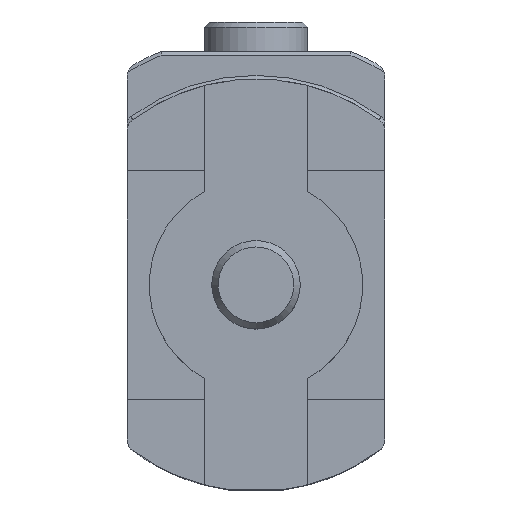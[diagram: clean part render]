
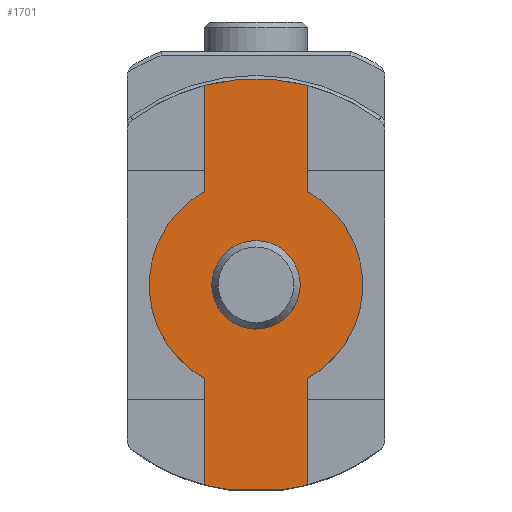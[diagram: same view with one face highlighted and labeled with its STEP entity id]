
A CAD part, top view. The second image highlights one B-rep face of the part: STEP entity #1701.
In plain terms, the highlighted planar face has unit normal (0, 0, 1).
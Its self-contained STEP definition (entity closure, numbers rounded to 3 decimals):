
#24 = ORIENTED_EDGE ( 'NONE', *, *, #1792, .T. ) ;
#67 = LINE ( 'NONE', #1003, #1229 ) ;
#71 = EDGE_CURVE ( 'NONE', #1329, #143, #117, .T. ) ;
#105 = CARTESIAN_POINT ( 'NONE',  ( 0., 0., 45.5 ) ) ;
#117 = CIRCLE ( 'NONE', #274, 28. ) ;
#122 = DIRECTION ( 'NONE',  ( 1., 0., 0. ) ) ;
#125 = CIRCLE ( 'NONE', #878, 14.5 ) ;
#143 = VERTEX_POINT ( 'NONE', #563 ) ;
#169 = VERTEX_POINT ( 'NONE', #2296 ) ;
#206 = DIRECTION ( 'NONE',  ( 1., 0., 0. ) ) ;
#223 = DIRECTION ( 'NONE',  ( 1., 0., 0. ) ) ;
#238 = EDGE_CURVE ( 'NONE', #679, #2332, #782, .T. ) ;
#274 = AXIS2_PLACEMENT_3D ( 'NONE', #745, #526, #2286 ) ;
#275 = CARTESIAN_POINT ( 'NONE',  ( 7., 12.698, 45.5 ) ) ;
#292 = DIRECTION ( 'NONE',  ( 0., 0., 1. ) ) ;
#410 = ORIENTED_EDGE ( 'NONE', *, *, #1083, .T. ) ;
#411 = CARTESIAN_POINT ( 'NONE',  ( -3.733, -27.75, 45.5 ) ) ;
#425 = PLANE ( 'NONE',  #915 ) ;
#434 = CIRCLE ( 'NONE', #753, 28. ) ;
#499 = CARTESIAN_POINT ( 'NONE',  ( -7., -27.111, 45.5 ) ) ;
#526 = DIRECTION ( 'NONE',  ( 0., 0., 1. ) ) ;
#563 = CARTESIAN_POINT ( 'NONE',  ( 7., -27.111, 45.5 ) ) ;
#613 = VERTEX_POINT ( 'NONE', #2306 ) ;
#622 = DIRECTION ( 'NONE',  ( 1., 0., 0. ) ) ;
#645 = EDGE_CURVE ( 'NONE', #169, #662, #793, .T. ) ;
#649 = EDGE_CURVE ( 'NONE', #1218, #1329, #2122, .T. ) ;
#662 = VERTEX_POINT ( 'NONE', #1191 ) ;
#663 = EDGE_LOOP ( 'NONE', ( #1073 ) ) ;
#679 = VERTEX_POINT ( 'NONE', #275 ) ;
#689 = ORIENTED_EDGE ( 'NONE', *, *, #71, .T. ) ;
#727 = CARTESIAN_POINT ( 'NONE',  ( 3.733, -27.75, 45.5 ) ) ;
#745 = CARTESIAN_POINT ( 'NONE',  ( 0., 0., 45.5 ) ) ;
#751 = VECTOR ( 'NONE', #223, 1000. ) ;
#753 = AXIS2_PLACEMENT_3D ( 'NONE', #2039, #1649, #122 ) ;
#761 = VERTEX_POINT ( 'NONE', #2198 ) ;
#773 = CARTESIAN_POINT ( 'NONE',  ( 0., 0., 45.5 ) ) ;
#782 = LINE ( 'NONE', #1722, #2225 ) ;
#793 = LINE ( 'NONE', #1720, #2064 ) ;
#818 = DIRECTION ( 'NONE',  ( 0., -1., 0. ) ) ;
#820 = DIRECTION ( 'NONE',  ( 0., 1., 0. ) ) ;
#868 = VERTEX_POINT ( 'NONE', #1591 ) ;
#878 = AXIS2_PLACEMENT_3D ( 'NONE', #2464, #1527, #2259 ) ;
#912 = DIRECTION ( 'NONE',  ( 0., 0., 1. ) ) ;
#915 = AXIS2_PLACEMENT_3D ( 'NONE', #1947, #1762, #622 ) ;
#1003 = CARTESIAN_POINT ( 'NONE',  ( -7., -27.111, 45.5 ) ) ;
#1049 = DIRECTION ( 'NONE',  ( 1., 0., 0. ) ) ;
#1073 = ORIENTED_EDGE ( 'NONE', *, *, #1536, .F. ) ;
#1083 = EDGE_CURVE ( 'NONE', #143, #613, #2290, .T. ) ;
#1142 = DIRECTION ( 'NONE',  ( 1., 0., 0. ) ) ;
#1151 = CARTESIAN_POINT ( 'NONE',  ( 7., 27.111, 45.5 ) ) ;
#1157 = DIRECTION ( 'NONE',  ( 0., -1., 0. ) ) ;
#1171 = DIRECTION ( 'NONE',  ( 0., 1., 0. ) ) ;
#1190 = AXIS2_PLACEMENT_3D ( 'NONE', #2112, #1870, #1142 ) ;
#1191 = CARTESIAN_POINT ( 'NONE',  ( -7., 12.698, 45.5 ) ) ;
#1218 = VERTEX_POINT ( 'NONE', #1855 ) ;
#1229 = VECTOR ( 'NONE', #1157, 1000. ) ;
#1230 = AXIS2_PLACEMENT_3D ( 'NONE', #105, #292, #1049 ) ;
#1270 = EDGE_CURVE ( 'NONE', #2149, #1218, #434, .T. ) ;
#1329 = VERTEX_POINT ( 'NONE', #727 ) ;
#1331 = CARTESIAN_POINT ( 'NONE',  ( 7., -27.111, 45.5 ) ) ;
#1527 = DIRECTION ( 'NONE',  ( 0., 0., 1. ) ) ;
#1535 = EDGE_CURVE ( 'NONE', #613, #679, #2150, .T. ) ;
#1536 = EDGE_CURVE ( 'NONE', #868, #868, #2193, .T. ) ;
#1540 = EDGE_CURVE ( 'NONE', #662, #761, #125, .T. ) ;
#1545 = AXIS2_PLACEMENT_3D ( 'NONE', #773, #912, #206 ) ;
#1591 = CARTESIAN_POINT ( 'NONE',  ( 5., 0., 45.5 ) ) ;
#1598 = FACE_OUTER_BOUND ( 'NONE', #1954, .T. ) ;
#1606 = EDGE_CURVE ( 'NONE', #761, #2149, #67, .T. ) ;
#1649 = DIRECTION ( 'NONE',  ( 0., 0., 1. ) ) ;
#1675 = ORIENTED_EDGE ( 'NONE', *, *, #1540, .T. ) ;
#1701 = ADVANCED_FACE ( 'NONE', ( #2325, #1598 ), #425, .T. ) ;
#1708 = VECTOR ( 'NONE', #1171, 1000. ) ;
#1720 = CARTESIAN_POINT ( 'NONE',  ( -7., 12.698, 45.5 ) ) ;
#1722 = CARTESIAN_POINT ( 'NONE',  ( 7., 12.698, 45.5 ) ) ;
#1750 = ORIENTED_EDGE ( 'NONE', *, *, #645, .T. ) ;
#1755 = ORIENTED_EDGE ( 'NONE', *, *, #238, .T. ) ;
#1762 = DIRECTION ( 'NONE',  ( 0., 0., 1. ) ) ;
#1792 = EDGE_CURVE ( 'NONE', #2332, #169, #2114, .T. ) ;
#1855 = CARTESIAN_POINT ( 'NONE',  ( -3.733, -27.75, 45.5 ) ) ;
#1870 = DIRECTION ( 'NONE',  ( 0., 0., 1. ) ) ;
#1947 = CARTESIAN_POINT ( 'NONE',  ( 0., 0., 45.5 ) ) ;
#1954 = EDGE_LOOP ( 'NONE', ( #2013, #1755, #24, #1750, #1675, #2024, #2000, #2304, #689, #410 ) ) ;
#2000 = ORIENTED_EDGE ( 'NONE', *, *, #1270, .T. ) ;
#2013 = ORIENTED_EDGE ( 'NONE', *, *, #1535, .T. ) ;
#2024 = ORIENTED_EDGE ( 'NONE', *, *, #1606, .T. ) ;
#2039 = CARTESIAN_POINT ( 'NONE',  ( 0., 0., 45.5 ) ) ;
#2064 = VECTOR ( 'NONE', #818, 1000. ) ;
#2112 = CARTESIAN_POINT ( 'NONE',  ( 0., 0., 45.5 ) ) ;
#2114 = CIRCLE ( 'NONE', #1230, 28. ) ;
#2122 = LINE ( 'NONE', #411, #751 ) ;
#2149 = VERTEX_POINT ( 'NONE', #499 ) ;
#2150 = CIRCLE ( 'NONE', #1190, 14.5 ) ;
#2193 = CIRCLE ( 'NONE', #1545, 5. ) ;
#2198 = CARTESIAN_POINT ( 'NONE',  ( -7., -12.698, 45.5 ) ) ;
#2225 = VECTOR ( 'NONE', #820, 1000. ) ;
#2259 = DIRECTION ( 'NONE',  ( 1., 0., 0. ) ) ;
#2286 = DIRECTION ( 'NONE',  ( 1., 0., 0. ) ) ;
#2290 = LINE ( 'NONE', #1331, #1708 ) ;
#2296 = CARTESIAN_POINT ( 'NONE',  ( -7., 27.111, 45.5 ) ) ;
#2304 = ORIENTED_EDGE ( 'NONE', *, *, #649, .T. ) ;
#2306 = CARTESIAN_POINT ( 'NONE',  ( 7., -12.698, 45.5 ) ) ;
#2325 = FACE_BOUND ( 'NONE', #663, .T. ) ;
#2332 = VERTEX_POINT ( 'NONE', #1151 ) ;
#2464 = CARTESIAN_POINT ( 'NONE',  ( 0., 0., 45.5 ) ) ;
